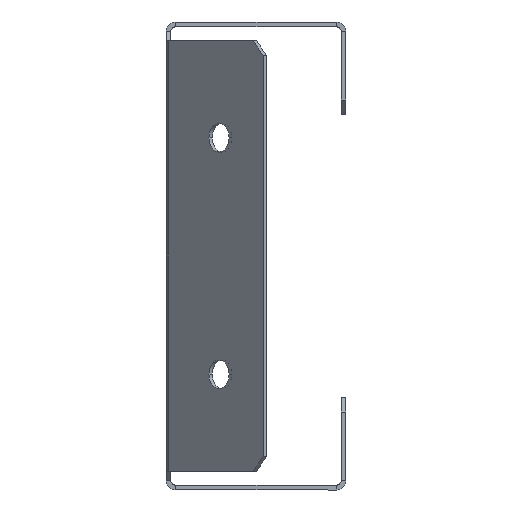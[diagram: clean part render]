
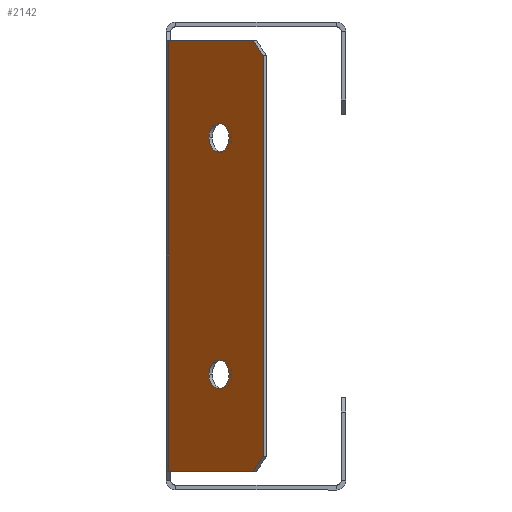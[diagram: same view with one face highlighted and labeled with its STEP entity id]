
A CAD part, left-side view. The second image highlights one B-rep face of the part: STEP entity #2142.
In plain terms, the highlighted planar face has unit normal (-0.707, 0.707, 0).
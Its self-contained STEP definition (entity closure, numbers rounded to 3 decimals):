
#73 = CARTESIAN_POINT ( 'NONE',  ( -168.122, -13.294, -25. ) ) ;
#116 = ORIENTED_EDGE ( 'NONE', *, *, #1854, .F. ) ;
#131 = VERTEX_POINT ( 'NONE', #883 ) ;
#185 = AXIS2_PLACEMENT_3D ( 'NONE', #1046, #3355, #1792 ) ;
#206 = DIRECTION ( 'NONE',  ( 0.5, 0.5, 0.707 ) ) ;
#277 = EDGE_CURVE ( 'NONE', #1706, #3132, #2984, .T. ) ;
#312 = ORIENTED_EDGE ( 'NONE', *, *, #2977, .F. ) ;
#319 = EDGE_CURVE ( 'NONE', #3132, #1706, #1040, .T. ) ;
#348 = AXIS2_PLACEMENT_3D ( 'NONE', #989, #3058, #1741 ) ;
#358 = DIRECTION ( 'NONE',  ( 0.707, 0.707, 0. ) ) ;
#374 = LINE ( 'NONE', #3212, #1799 ) ;
#427 = ORIENTED_EDGE ( 'NONE', *, *, #932, .F. ) ;
#441 = EDGE_LOOP ( 'NONE', ( #427, #116 ) ) ;
#449 = DIRECTION ( 'NONE',  ( -0.707, 0.707, 0. ) ) ;
#464 = FACE_BOUND ( 'NONE', #625, .T. ) ;
#509 = DIRECTION ( 'NONE',  ( 0., 0., -1. ) ) ;
#513 = AXIS2_PLACEMENT_3D ( 'NONE', #1321, #1067, #2868 ) ;
#536 = FACE_OUTER_BOUND ( 'NONE', #1435, .T. ) ;
#581 = CARTESIAN_POINT ( 'NONE',  ( -155.121, -0.293, -45.5 ) ) ;
#589 = ORIENTED_EDGE ( 'NONE', *, *, #1450, .T. ) ;
#625 = EDGE_LOOP ( 'NONE', ( #1723, #1342 ) ) ;
#692 = CARTESIAN_POINT ( 'NONE',  ( -173.213, -18.385, -45.5 ) ) ;
#697 = CARTESIAN_POINT ( 'NONE',  ( -141.504, 13.324, 90.344 ) ) ;
#781 = PLANE ( 'NONE',  #185 ) ;
#840 = VECTOR ( 'NONE', #509, 1000. ) ;
#842 = VECTOR ( 'NONE', #1515, 1000. ) ;
#883 = CARTESIAN_POINT ( 'NONE',  ( -175.335, -20.506, -42.5 ) ) ;
#932 = EDGE_CURVE ( 'NONE', #2003, #2585, #3208, .T. ) ;
#956 = VERTEX_POINT ( 'NONE', #3300 ) ;
#979 = CARTESIAN_POINT ( 'NONE',  ( -175.335, -20.506, 45.5 ) ) ;
#989 = CARTESIAN_POINT ( 'NONE',  ( -166.001, -11.172, 25. ) ) ;
#1040 = CIRCLE ( 'NONE', #513, 3. ) ;
#1046 = CARTESIAN_POINT ( 'NONE',  ( -77.621, 77.207, 0. ) ) ;
#1052 = CARTESIAN_POINT ( 'NONE',  ( -163.879, -9.051, -25. ) ) ;
#1067 = DIRECTION ( 'NONE',  ( -0.707, 0.707, 0. ) ) ;
#1078 = CARTESIAN_POINT ( 'NONE',  ( -168.122, -13.294, 25. ) ) ;
#1200 = LINE ( 'NONE', #979, #842 ) ;
#1217 = VECTOR ( 'NONE', #358, 1000. ) ;
#1235 = LINE ( 'NONE', #2489, #840 ) ;
#1321 = CARTESIAN_POINT ( 'NONE',  ( -166.001, -11.172, -25. ) ) ;
#1342 = ORIENTED_EDGE ( 'NONE', *, *, #319, .F. ) ;
#1379 = ORIENTED_EDGE ( 'NONE', *, *, #2260, .F. ) ;
#1428 = VECTOR ( 'NONE', #3256, 1000. ) ;
#1435 = EDGE_LOOP ( 'NONE', ( #312, #589, #1808, #3343, #1379, #2204 ) ) ;
#1450 = EDGE_CURVE ( 'NONE', #1774, #956, #1974, .T. ) ;
#1515 = DIRECTION ( 'NONE',  ( -0.707, -0.707, 0. ) ) ;
#1518 = CARTESIAN_POINT ( 'NONE',  ( -166.001, -11.172, -25. ) ) ;
#1706 = VERTEX_POINT ( 'NONE', #73 ) ;
#1723 = ORIENTED_EDGE ( 'NONE', *, *, #277, .F. ) ;
#1741 = DIRECTION ( 'NONE',  ( -0.707, -0.707, 0. ) ) ;
#1774 = VERTEX_POINT ( 'NONE', #2004 ) ;
#1792 = DIRECTION ( 'NONE',  ( -0.707, -0.707, 0. ) ) ;
#1799 = VECTOR ( 'NONE', #1937, 1000. ) ;
#1808 = ORIENTED_EDGE ( 'NONE', *, *, #3318, .F. ) ;
#1854 = EDGE_CURVE ( 'NONE', #2585, #2003, #2661, .T. ) ;
#1868 = VERTEX_POINT ( 'NONE', #692 ) ;
#1937 = DIRECTION ( 'NONE',  ( -0.5, -0.5, 0.707 ) ) ;
#1952 = DIRECTION ( 'NONE',  ( -0.707, -0.707, 0. ) ) ;
#1974 = LINE ( 'NONE', #697, #2658 ) ;
#2003 = VERTEX_POINT ( 'NONE', #1078 ) ;
#2004 = CARTESIAN_POINT ( 'NONE',  ( -175.335, -20.506, 42.5 ) ) ;
#2142 = ADVANCED_FACE ( 'NONE', ( #2830, #464, #536 ), #781, .T. ) ;
#2191 = CARTESIAN_POINT ( 'NONE',  ( -155.414, -0.586, 0. ) ) ;
#2204 = ORIENTED_EDGE ( 'NONE', *, *, #2463, .T. ) ;
#2260 = EDGE_CURVE ( 'NONE', #1868, #2901, #2381, .T. ) ;
#2275 = CARTESIAN_POINT ( 'NONE',  ( -155.414, -0.586, 45.5 ) ) ;
#2381 = LINE ( 'NONE', #581, #1217 ) ;
#2463 = EDGE_CURVE ( 'NONE', #1868, #131, #374, .T. ) ;
#2489 = CARTESIAN_POINT ( 'NONE',  ( -175.335, -20.506, -45.5 ) ) ;
#2508 = CARTESIAN_POINT ( 'NONE',  ( -155.414, -0.586, -45.5 ) ) ;
#2534 = DIRECTION ( 'NONE',  ( -0.707, 0.707, 0. ) ) ;
#2558 = CARTESIAN_POINT ( 'NONE',  ( -163.879, -9.051, 25. ) ) ;
#2585 = VERTEX_POINT ( 'NONE', #2558 ) ;
#2616 = VERTEX_POINT ( 'NONE', #2275 ) ;
#2658 = VECTOR ( 'NONE', #206, 1000. ) ;
#2661 = CIRCLE ( 'NONE', #2721, 3. ) ;
#2721 = AXIS2_PLACEMENT_3D ( 'NONE', #3291, #2534, #3067 ) ;
#2830 = FACE_BOUND ( 'NONE', #441, .T. ) ;
#2868 = DIRECTION ( 'NONE',  ( -0.707, -0.707, 0. ) ) ;
#2870 = EDGE_CURVE ( 'NONE', #2616, #2901, #3188, .T. ) ;
#2901 = VERTEX_POINT ( 'NONE', #2508 ) ;
#2977 = EDGE_CURVE ( 'NONE', #1774, #131, #1235, .T. ) ;
#2984 = CIRCLE ( 'NONE', #3035, 3. ) ;
#3035 = AXIS2_PLACEMENT_3D ( 'NONE', #1518, #449, #1952 ) ;
#3058 = DIRECTION ( 'NONE',  ( -0.707, 0.707, 0. ) ) ;
#3067 = DIRECTION ( 'NONE',  ( -0.707, -0.707, 0. ) ) ;
#3132 = VERTEX_POINT ( 'NONE', #1052 ) ;
#3188 = LINE ( 'NONE', #2191, #1428 ) ;
#3208 = CIRCLE ( 'NONE', #348, 3. ) ;
#3212 = CARTESIAN_POINT ( 'NONE',  ( -141.504, 13.324, -90.344 ) ) ;
#3256 = DIRECTION ( 'NONE',  ( 0., 0., -1. ) ) ;
#3291 = CARTESIAN_POINT ( 'NONE',  ( -166.001, -11.172, 25. ) ) ;
#3300 = CARTESIAN_POINT ( 'NONE',  ( -173.213, -18.385, 45.5 ) ) ;
#3318 = EDGE_CURVE ( 'NONE', #2616, #956, #1200, .T. ) ;
#3343 = ORIENTED_EDGE ( 'NONE', *, *, #2870, .T. ) ;
#3355 = DIRECTION ( 'NONE',  ( -0.707, 0.707, 0. ) ) ;
